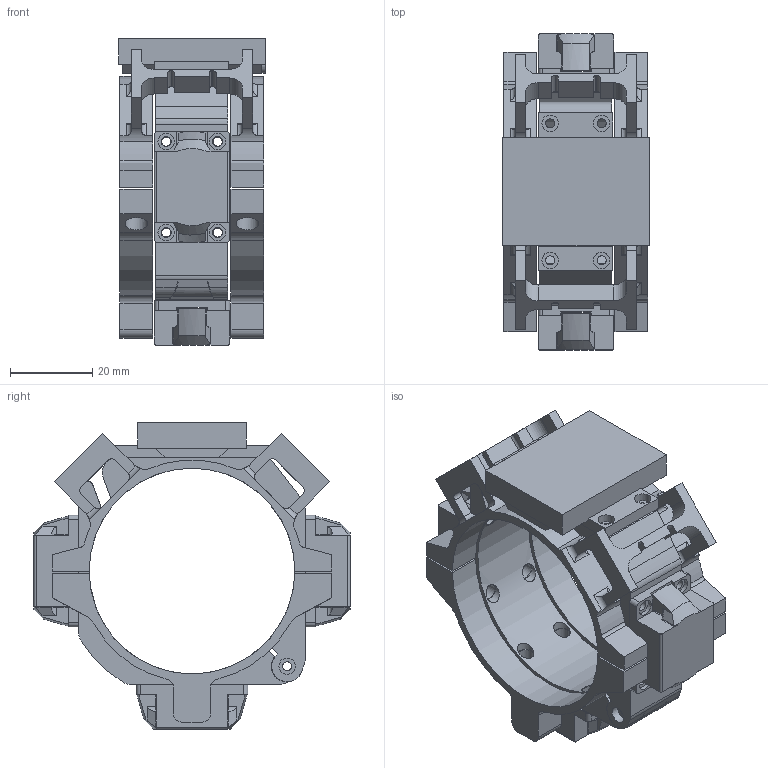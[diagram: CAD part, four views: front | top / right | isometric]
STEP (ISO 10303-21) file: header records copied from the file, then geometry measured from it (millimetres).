
FILE_DESCRIPTION(/* description */ (''),/* implementation_level */ '2;1');
FILE_NAME(/* name */ 'FORCEbit_sensor.stp',/* time_stamp */ '2026-08-31T14:30:33+02:00',/* author */ (''),/* organization */ (''),/* preprocessor_version */ 'ST-DEVELOPER v20',/* originating_system */ 'SIEMENS PLM Software NX2312.9162',/* authorisation */ '');
FILE_SCHEMA (('AUTOMOTIVE_DESIGN { 1 0 10303 214 3 1 1 1 }'));
Length unit declared in the file: millimetre
Products named in the file (6): Assembly_Forcebit_50mm_bottom; Assembly_Forcebit_50mm_top; TELbit_Main_Module; Small_Module; collar_TELbit_50; FORCEbit_sensor
Assembly tree (8 placements, depth 2):
  FORCEbit_sensor
    collar_TELbit_50
    Small_Module  x3
    TELbit_Main_Module
    Assembly_Forcebit_50mm_top
    Assembly_Forcebit_50mm_bottom  x2
Bounding box: 35.65 x 76.8 x 74.4 mm (x, y, z)
Volume: 45409.7 mm3; surface area: 34991.2 mm2
Topology: 9 solids, 9 shells, 649 faces, 1828 edges, 1224 vertices
Faces by surface type: plane 349, cylinder 270, bspline 16, cone 10, torus 4
Full cylindrical faces by diameter (mm): 2.2 x22, 2.4 x13, 3 x8, 3.2 x2, 3.8 x16, 4 x33, 4.8 x1, 5.5 x4, 6 x1
Entity records: 15938 total; most frequent: CARTESIAN_POINT 4170, DIRECTION 2374, ORIENTED_EDGE 2306, EDGE_CURVE 1153, AXIS2_PLACEMENT_3D 842, VERTEX_POINT 813, LINE 690, VECTOR 690
